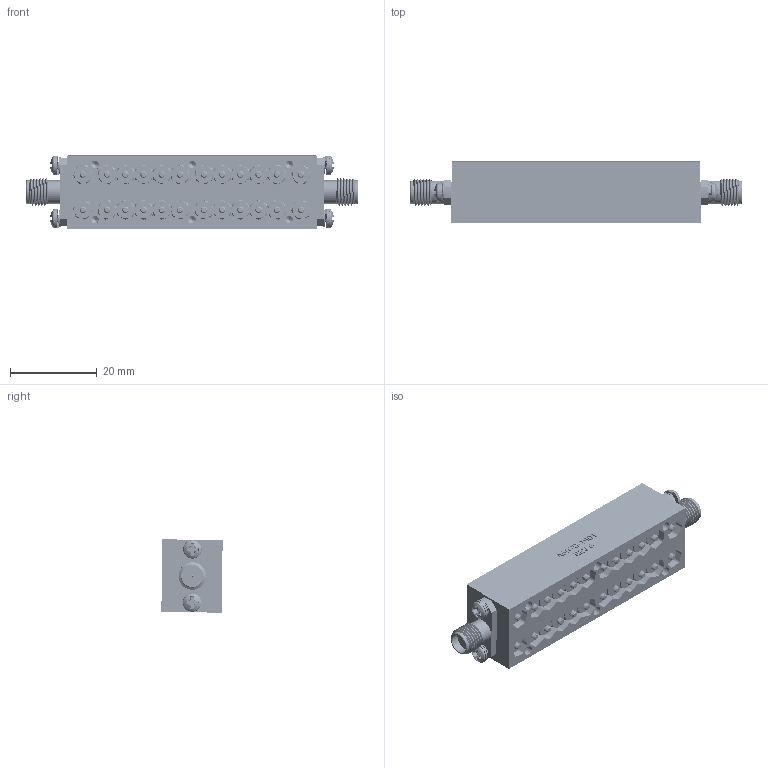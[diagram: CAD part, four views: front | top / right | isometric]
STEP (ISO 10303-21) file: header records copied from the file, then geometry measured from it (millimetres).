
FILE_DESCRIPTION (( 'STEP AP214' ), '1' );
FILE_NAME ('NW-FL-10BPCV-19700-SFSF-M01.STEP', '2025-04-01T12:31:32', ( '' ), ( '' ), 'SwSTEP 2.0', 'SolidWorks 2021', '' );
FILE_SCHEMA (( 'AUTOMOTIVE_DESIGN' ));
Length unit declared in the file: inch
Products named in the file (15): 1025-098-079-010-L; FS-SCREW STACK UP 2-56 x .375 long (PAN HEAD); 5710-120-16 - WASHER, FLAT, SS, #0, .13 OD X .02 THK_92141A001; 92196A048 (XXXX) - SCREW, SHCS, SS, #0-80 X .437L_92196A048; A6070-1902; NW-FL-10BPCV-19700-SFSF-M01; Assem1^A6070-1900; 290-06G; A6070-1901; 214-500SF; 91841A115 (70701) - NUT, HEX, SS, #0-80_91841A115; 91772A079 (72460) - SCREW, PPHMS, SS, #2-56 X .375L_91772A079; 92146A520 (71051) - WASHER, SPLIT-LOCK, SS, #2, .18 OD X .02 THK_92146A520; 90945A705 (9900326) - WASHER, FLAT, SS, #2, .15 OD X .01 THK_90945A705; 90145A414 (2MA85) - DOWEL PIN, SS, .062D X .188L_90145A414
Assembly tree (44 placements, depth 3):
  NW-FL-10BPCV-19700-SFSF-M01
    A6070-1901
    A6070-1902
    FS-SCREW STACK UP 2-56 x .375 long (PAN HEAD)  x4
      91772A079 (72460) - SCREW, PPHMS, SS, #2-56 X .375L_91772A079
      92146A520 (71051) - WASHER, SPLIT-LOCK, SS, #2, .18 OD X .02 THK_92146A520
      90945A705 (9900326) - WASHER, FLAT, SS, #2, .15 OD X .01 THK_90945A705
    90145A414 (2MA85) - DOWEL PIN, SS, .062D X .188L_90145A414  x2
    Assem1^A6070-1900  x24
      91841A115 (70701) - NUT, HEX, SS, #0-80_91841A115
      92196A048 (XXXX) - SCREW, SHCS, SS, #0-80 X .437L_92196A048
      5710-120-16 - WASHER, FLAT, SS, #0, .13 OD X .02 THK_92141A001
    214-500SF  x2
    290-06G  x2
    1025-098-079-010-L  x2
Bounding box: 76.44 x 14.08 x 16.86 mm (x, y, z)
Volume: 11381.5 mm3; surface area: 15351.8 mm2
Topology: 104 solids, 104 shells, 5465 faces, 13983 edges, 8834 vertices
Faces by surface type: cylinder 3118, cone 1056, plane 926, bspline 333, torus 16, sphere 16
Entity records: 59984 total; most frequent: CARTESIAN_POINT 28211, ORIENTED_EDGE 6906, DIRECTION 5517, EDGE_CURVE 3453, VERTEX_POINT 2274, AXIS2_PLACEMENT_3D 1931, LINE 1655, VECTOR 1655
